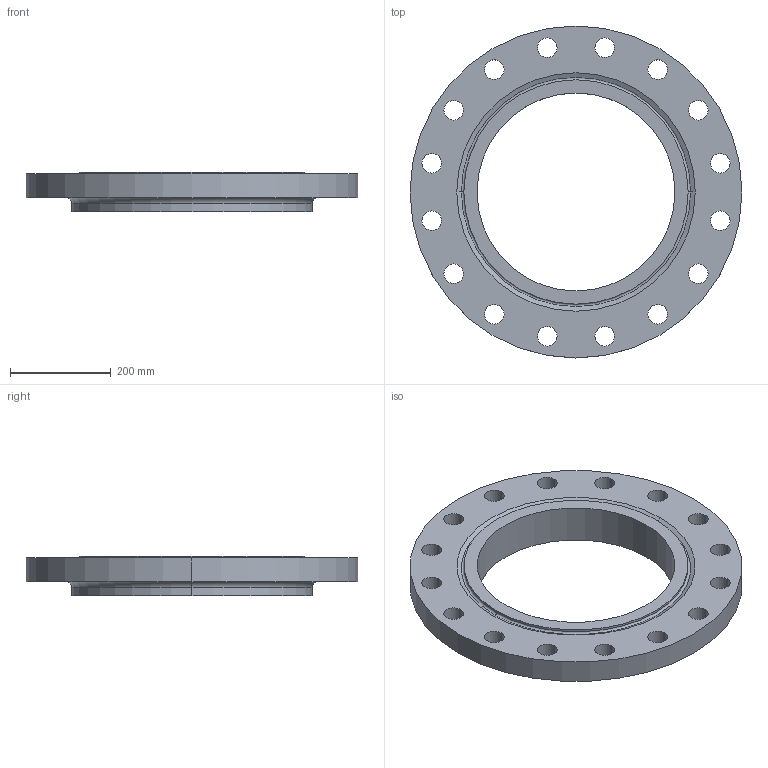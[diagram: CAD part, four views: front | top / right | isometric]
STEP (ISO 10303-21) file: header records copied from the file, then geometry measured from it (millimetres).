
FILE_DESCRIPTION (( 'STEP AP214' ), '1' );
FILE_NAME ('PN40 DN400 Type 13 - Type H Face.STEP', '2019-01-05T23:14:45', ( '' ), ( '' ), 'SwSTEP 2.0', 'SolidWorks 2019', '' );
FILE_SCHEMA (( 'AUTOMOTIVE_DESIGN' ));
Length unit declared in the file: millimetre
Products named in the file (1): PN40 DN400 Type 13 - Type H Face
Bounding box: 660 x 660 x 78 mm (x, y, z)
Volume: 11173522 mm3; surface area: 734013 mm2
Topology: 1 solids, 1 shells, 50 faces, 132 edges, 86 vertices
Faces by surface type: cylinder 40, torus 4, plane 4, cone 2
Entity records: 1700 total; most frequent: DIRECTION 324, CARTESIAN_POINT 269, ORIENTED_EDGE 264, AXIS2_PLACEMENT_3D 141, EDGE_CURVE 132, CIRCLE 90, EDGE_LOOP 86, VERTEX_POINT 86
